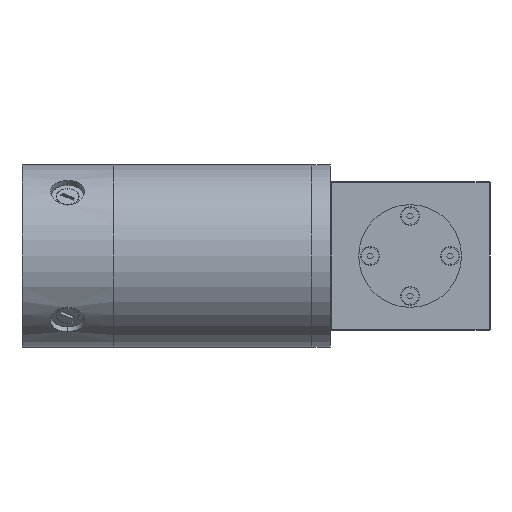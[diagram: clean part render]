
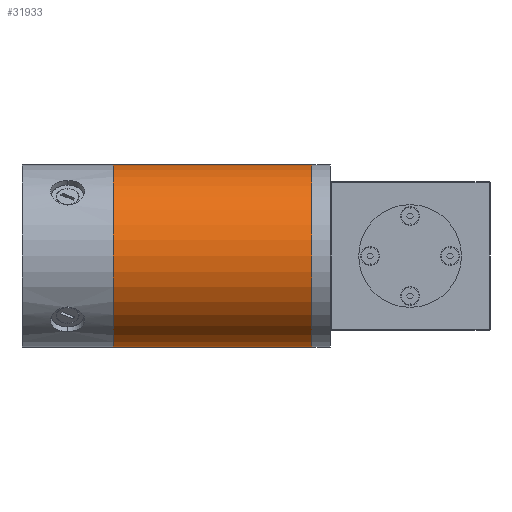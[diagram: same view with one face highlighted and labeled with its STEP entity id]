
A CAD part, left-side view. The second image highlights one B-rep face of the part: STEP entity #31933.
In plain terms, the highlighted cylindrical face has radius 50.8 mm (diameter 101.6 mm), a partial arc.
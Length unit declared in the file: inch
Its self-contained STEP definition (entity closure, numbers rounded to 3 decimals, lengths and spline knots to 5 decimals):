
#1681 = CARTESIAN_POINT ( 'NONE',  ( 7.41726, 8.61131, 0.88268 ) ) ;
#3356 = CARTESIAN_POINT ( 'NONE',  ( 7.41726, 4.26131, 0.88268 ) ) ;
#6098 = EDGE_CURVE ( 'NONE', #58087, #16052, #23584, .T. ) ;
#6935 = EDGE_CURVE ( 'NONE', #43329, #44019, #41759, .T. ) ;
#7351 = EDGE_CURVE ( 'NONE', #58087, #43329, #54989, .T. ) ;
#9187 = DIRECTION ( 'NONE',  ( 0., 0., 1. ) ) ;
#9332 = DIRECTION ( 'NONE',  ( 0., -1., 0. ) ) ;
#9413 = DIRECTION ( 'NONE',  ( 0., -1., 0. ) ) ;
#11275 = DIRECTION ( 'NONE',  ( 0., 1., 0. ) ) ;
#12070 = CYLINDRICAL_SURFACE ( 'NONE', #32263, 2. ) ;
#12796 = CARTESIAN_POINT ( 'NONE',  ( 7.41726, 14.26817, 0.88268 ) ) ;
#16052 = VERTEX_POINT ( 'NONE', #56533 ) ;
#18434 = CARTESIAN_POINT ( 'NONE',  ( 7.41726, 8.61131, 2.88268 ) ) ;
#19083 = DIRECTION ( 'NONE',  ( 0., -1., 0. ) ) ;
#20569 = DIRECTION ( 'NONE',  ( 0., 0., -1. ) ) ;
#20902 = DIRECTION ( 'NONE',  ( 0., -1., 0. ) ) ;
#21827 = AXIS2_PLACEMENT_3D ( 'NONE', #38226, #11275, #20569 ) ;
#23584 = LINE ( 'NONE', #31898, #44550 ) ;
#28507 = VECTOR ( 'NONE', #20902, 39.37008 ) ;
#31898 = CARTESIAN_POINT ( 'NONE',  ( 7.41726, 14.26817, 4.88268 ) ) ;
#31933 = ADVANCED_FACE ( 'NONE', ( #45765 ), #12070, .T. ) ;
#32263 = AXIS2_PLACEMENT_3D ( 'NONE', #45728, #19083, #9187 ) ;
#35330 = CARTESIAN_POINT ( 'NONE',  ( 7.41726, 8.61131, 4.88268 ) ) ;
#38226 = CARTESIAN_POINT ( 'NONE',  ( 7.41726, 4.26131, 2.88268 ) ) ;
#39385 = ORIENTED_EDGE ( 'NONE', *, *, #55705, .T. ) ;
#41759 = LINE ( 'NONE', #12796, #28507 ) ;
#43329 = VERTEX_POINT ( 'NONE', #1681 ) ;
#44019 = VERTEX_POINT ( 'NONE', #3356 ) ;
#44550 = VECTOR ( 'NONE', #9413, 39.37008 ) ;
#44692 = AXIS2_PLACEMENT_3D ( 'NONE', #18434, #9332, #49210 ) ;
#45728 = CARTESIAN_POINT ( 'NONE',  ( 7.41726, 14.26817, 2.88268 ) ) ;
#45765 = FACE_OUTER_BOUND ( 'NONE', #51147, .T. ) ;
#47871 = ORIENTED_EDGE ( 'NONE', *, *, #6935, .T. ) ;
#48072 = CIRCLE ( 'NONE', #21827, 2. ) ;
#49210 = DIRECTION ( 'NONE',  ( 0., 0., 1. ) ) ;
#51147 = EDGE_LOOP ( 'NONE', ( #52918, #47871, #39385, #55568 ) ) ;
#52918 = ORIENTED_EDGE ( 'NONE', *, *, #7351, .T. ) ;
#54989 = CIRCLE ( 'NONE', #44692, 2. ) ;
#55568 = ORIENTED_EDGE ( 'NONE', *, *, #6098, .F. ) ;
#55705 = EDGE_CURVE ( 'NONE', #44019, #16052, #48072, .T. ) ;
#56533 = CARTESIAN_POINT ( 'NONE',  ( 7.41726, 4.26131, 4.88268 ) ) ;
#58087 = VERTEX_POINT ( 'NONE', #35330 ) ;
